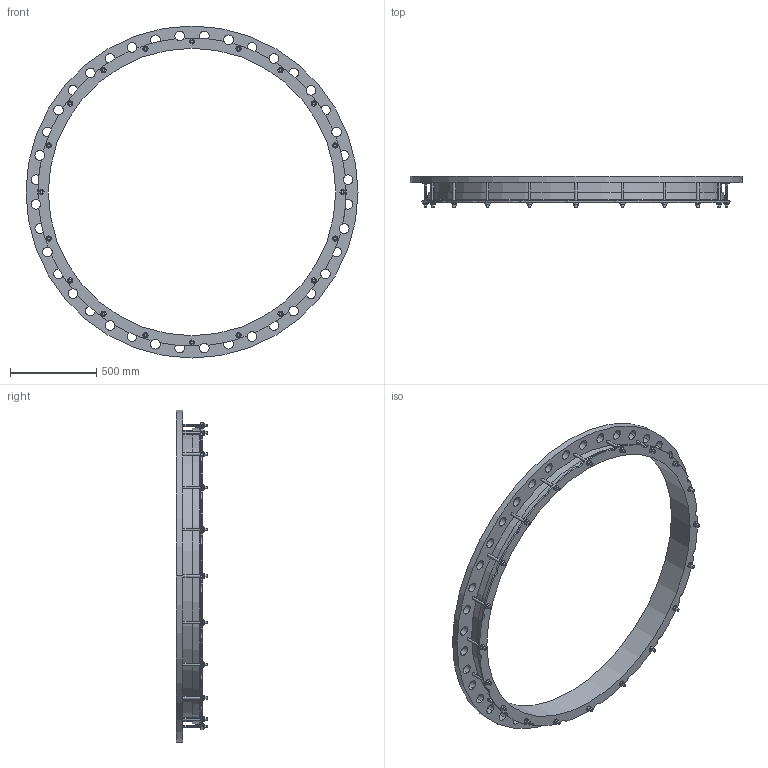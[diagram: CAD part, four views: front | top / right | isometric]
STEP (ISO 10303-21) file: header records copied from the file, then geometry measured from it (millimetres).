
FILE_DESCRIPTION((''),'2;1');
FILE_NAME('1668X1600PN16_20NOT','2019-01-17T',('mfairey'),('Glynwed Pipe Systems'),'CREO PARAMETRIC BY PTC INC, 2016130','CREO PARAMETRIC BY PTC INC, 2016130','');
FILE_SCHEMA(('CONFIG_CONTROL_DESIGN'));
Length unit declared in the file: millimetre
Products named in the file (1): 1668X1600PN16_20NOT
Bounding box: 1930 x 182 x 1930 mm (x, y, z)
Volume: 38258275.5 mm3; surface area: 3806933.1 mm2
Topology: 1 solids, 1 shells, 436 faces, 1174 edges, 782 vertices
Faces by surface type: cylinder 246, plane 184, cone 4, torus 2
Entity records: 16162 total; most frequent: CARTESIAN_POINT 4658, DIRECTION 2402, ORIENTED_EDGE 2348, EDGE_CURVE 1174, AXIS2_PLACEMENT_3D 896, VERTEX_POINT 782, VECTOR 610, LINE 610
